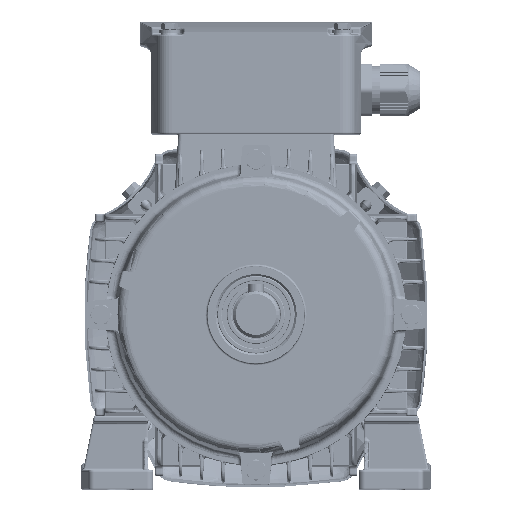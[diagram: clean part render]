
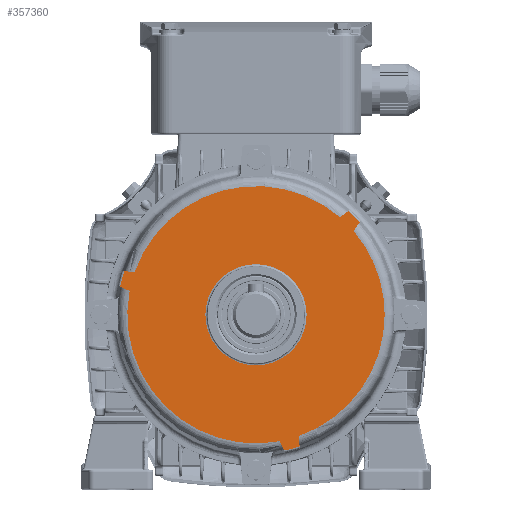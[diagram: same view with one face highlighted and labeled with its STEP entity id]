
A CAD part, top view. The second image highlights one B-rep face of the part: STEP entity #357360.
In plain terms, the highlighted planar face has unit normal (0, 0, 1).
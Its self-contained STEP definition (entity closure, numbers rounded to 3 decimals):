
#3254 = CARTESIAN_POINT ( 'NONE',  ( 0., 0., 119. ) ) ;
#10408 = EDGE_CURVE ( 'NONE', #338042, #300145, #289898, .T. ) ;
#12197 = AXIS2_PLACEMENT_3D ( 'NONE', #105742, #302454, #134089 ) ;
#15324 = CARTESIAN_POINT ( 'NONE',  ( -70.958, 14.872, 119. ) ) ;
#17357 = DIRECTION ( 'NONE',  ( 1., 0., 0. ) ) ;
#25510 = VERTEX_POINT ( 'NONE', #280433 ) ;
#27780 = DIRECTION ( 'NONE',  ( 0., 0., -1. ) ) ;
#29230 = EDGE_CURVE ( 'NONE', #134349, #106742, #33153, .T. ) ;
#30497 = VERTEX_POINT ( 'NONE', #269862 ) ;
#31527 = DIRECTION ( 'NONE',  ( 1., 0., 0. ) ) ;
#33153 = CIRCLE ( 'NONE', #350184, 66.326 ) ;
#34727 = CARTESIAN_POINT ( 'NONE',  ( 21.947, -62.59, 119. ) ) ;
#35490 = ORIENTED_EDGE ( 'NONE', *, *, #339232, .T. ) ;
#46652 = LINE ( 'NONE', #122212, #328010 ) ;
#48577 = EDGE_CURVE ( 'NONE', #25510, #210813, #294242, .T. ) ;
#50082 = CIRCLE ( 'NONE', #220634, 71.5 ) ;
#52134 = CARTESIAN_POINT ( 'NONE',  ( 0., 0., 119. ) ) ;
#58204 = EDGE_CURVE ( 'NONE', #227956, #338042, #183051, .T. ) ;
#73583 = CARTESIAN_POINT ( 'NONE',  ( -62.59, 21.947, 119. ) ) ;
#80462 = DIRECTION ( 'NONE',  ( -1., 0., 0. ) ) ;
#84182 = DIRECTION ( 'NONE',  ( 0., 0., 1. ) ) ;
#87960 = DIRECTION ( 'NONE',  ( 0., 0., 1. ) ) ;
#88258 = EDGE_LOOP ( 'NONE', ( #133736, #35490, #259522, #325013, #149877, #321170, #147806, #309509, #201469, #104296, #178756, #205226, #219716 ) ) ;
#90319 = CARTESIAN_POINT ( 'NONE',  ( 43.231, 50.302, 119. ) ) ;
#92036 = EDGE_CURVE ( 'NONE', #116505, #134349, #125649, .T. ) ;
#92920 = VECTOR ( 'NONE', #240426, 1000. ) ;
#93882 = DIRECTION ( 'NONE',  ( 0., 0., 1. ) ) ;
#97947 = FACE_OUTER_BOUND ( 'NONE', #88258, .T. ) ;
#103442 = DIRECTION ( 'NONE',  ( 0.587, 0.81, 0. ) ) ;
#104296 = ORIENTED_EDGE ( 'NONE', *, *, #227335, .T. ) ;
#105742 = CARTESIAN_POINT ( 'NONE',  ( 0., 0., 119. ) ) ;
#106742 = VERTEX_POINT ( 'NONE', #113297 ) ;
#109967 = EDGE_CURVE ( 'NONE', #210813, #113138, #46652, .T. ) ;
#113138 = VERTEX_POINT ( 'NONE', #194161 ) ;
#113297 = CARTESIAN_POINT ( 'NONE',  ( -62.59, 21.947, 119. ) ) ;
#116505 = VERTEX_POINT ( 'NONE', #164856 ) ;
#118029 = VERTEX_POINT ( 'NONE', #302770 ) ;
#120673 = AXIS2_PLACEMENT_3D ( 'NONE', #196341, #27780, #224609 ) ;
#122212 = CARTESIAN_POINT ( 'NONE',  ( 12.288, -65.178, 119. ) ) ;
#122258 = CARTESIAN_POINT ( 'NONE',  ( -70.024, 14.454, 119. ) ) ;
#123253 = DIRECTION ( 'NONE',  ( -0.103, 0.995, 0. ) ) ;
#125325 = VECTOR ( 'NONE', #103442, 1000. ) ;
#125649 = LINE ( 'NONE', #284484, #262657 ) ;
#125729 = VERTEX_POINT ( 'NONE', #133098 ) ;
#132944 = EDGE_CURVE ( 'NONE', #214432, #248447, #323362, .T. ) ;
#133098 = CARTESIAN_POINT ( 'NONE',  ( 50.302, 43.231, 119. ) ) ;
#133736 = ORIENTED_EDGE ( 'NONE', *, *, #109967, .T. ) ;
#134089 = DIRECTION ( 'NONE',  ( 1., 0., 0. ) ) ;
#134349 = VERTEX_POINT ( 'NONE', #90319 ) ;
#147806 = ORIENTED_EDGE ( 'NONE', *, *, #308079, .T. ) ;
#149071 = DIRECTION ( 'NONE',  ( 0., 0., 1. ) ) ;
#149877 = ORIENTED_EDGE ( 'NONE', *, *, #211864, .T. ) ;
#150491 = DIRECTION ( 'NONE',  ( 0.408, -0.913, 0. ) ) ;
#152642 = CIRCLE ( 'NONE', #260528, 26.106 ) ;
#155727 = EDGE_CURVE ( 'NONE', #125729, #200484, #274866, .T. ) ;
#157886 = AXIS2_PLACEMENT_3D ( 'NONE', #327361, #159138, #355566 ) ;
#157943 = AXIS2_PLACEMENT_3D ( 'NONE', #252596, #84182, #280847 ) ;
#159138 = DIRECTION ( 'NONE',  ( 0., 0., 1. ) ) ;
#164856 = CARTESIAN_POINT ( 'NONE',  ( 47.53, 53.415, 119. ) ) ;
#165573 = PLANE ( 'NONE',  #120673 ) ;
#168463 = AXIS2_PLACEMENT_3D ( 'NONE', #317377, #149071, #345564 ) ;
#172394 = ORIENTED_EDGE ( 'NONE', *, *, #196175, .F. ) ;
#178343 = CARTESIAN_POINT ( 'NONE',  ( -67.869, 22.494, 119. ) ) ;
#178756 = ORIENTED_EDGE ( 'NONE', *, *, #132944, .T. ) ;
#182853 = AXIS2_PLACEMENT_3D ( 'NONE', #256408, #87960, #284645 ) ;
#183051 = LINE ( 'NONE', #349254, #249022 ) ;
#185875 = DIRECTION ( 'NONE',  ( 0., 0., 1. ) ) ;
#194161 = CARTESIAN_POINT ( 'NONE',  ( 14.454, -70.024, 119. ) ) ;
#194923 = CARTESIAN_POINT ( 'NONE',  ( 66.326, 0., 119. ) ) ;
#196175 = EDGE_CURVE ( 'NONE', #30497, #118029, #152642, .T. ) ;
#196341 = CARTESIAN_POINT ( 'NONE',  ( 0., 0., 119. ) ) ;
#200138 = DIRECTION ( 'NONE',  ( 0., 0., 1. ) ) ;
#200484 = VERTEX_POINT ( 'NONE', #339471 ) ;
#201469 = ORIENTED_EDGE ( 'NONE', *, *, #29230, .T. ) ;
#205226 = ORIENTED_EDGE ( 'NONE', *, *, #359438, .T. ) ;
#207667 = AXIS2_PLACEMENT_3D ( 'NONE', #262396, #93882, #290614 ) ;
#209735 = CIRCLE ( 'NONE', #182853, 26.106 ) ;
#210813 = VERTEX_POINT ( 'NONE', #347955 ) ;
#211864 = EDGE_CURVE ( 'NONE', #300145, #125729, #287992, .T. ) ;
#214432 = VERTEX_POINT ( 'NONE', #178343 ) ;
#219716 = ORIENTED_EDGE ( 'NONE', *, *, #48577, .T. ) ;
#220634 = AXIS2_PLACEMENT_3D ( 'NONE', #52134, #248935, #80462 ) ;
#224609 = DIRECTION ( 'NONE',  ( -1., 0., 0. ) ) ;
#226209 = CIRCLE ( 'NONE', #157886, 71.5 ) ;
#227335 = EDGE_CURVE ( 'NONE', #106742, #214432, #305205, .T. ) ;
#227956 = VERTEX_POINT ( 'NONE', #302996 ) ;
#229234 = DIRECTION ( 'NONE',  ( -0.81, -0.587, 0. ) ) ;
#230520 = VECTOR ( 'NONE', #326708, 1000. ) ;
#240426 = DIRECTION ( 'NONE',  ( 0.913, -0.408, 0. ) ) ;
#248447 = VERTEX_POINT ( 'NONE', #122258 ) ;
#248935 = DIRECTION ( 'NONE',  ( 0., 0., 1. ) ) ;
#249022 = VECTOR ( 'NONE', #123253, 1000. ) ;
#252596 = CARTESIAN_POINT ( 'NONE',  ( 0., 0., 119. ) ) ;
#256407 = FACE_BOUND ( 'NONE', #321990, .T. ) ;
#256408 = CARTESIAN_POINT ( 'NONE',  ( 0., 0., 119. ) ) ;
#259522 = ORIENTED_EDGE ( 'NONE', *, *, #58204, .T. ) ;
#260528 = AXIS2_PLACEMENT_3D ( 'NONE', #3254, #200138, #31527 ) ;
#262396 = CARTESIAN_POINT ( 'NONE',  ( 0., 0., 119. ) ) ;
#262657 = VECTOR ( 'NONE', #229234, 1000. ) ;
#264965 = EDGE_CURVE ( 'NONE', #118029, #30497, #209735, .T. ) ;
#269862 = CARTESIAN_POINT ( 'NONE',  ( -26.106, 0., 119. ) ) ;
#271946 = CARTESIAN_POINT ( 'NONE',  ( 50.302, 43.231, 119. ) ) ;
#274866 = LINE ( 'NONE', #271946, #125325 ) ;
#280433 = CARTESIAN_POINT ( 'NONE',  ( -65.178, 12.288, 119. ) ) ;
#280847 = DIRECTION ( 'NONE',  ( 1., 0., 0. ) ) ;
#284484 = CARTESIAN_POINT ( 'NONE',  ( 48.359, 54.016, 119. ) ) ;
#284645 = DIRECTION ( 'NONE',  ( 1., 0., 0. ) ) ;
#287992 = CIRCLE ( 'NONE', #168463, 66.326 ) ;
#289898 = CIRCLE ( 'NONE', #12197, 66.326 ) ;
#290614 = DIRECTION ( 'NONE',  ( -1., 0., 0. ) ) ;
#294242 = CIRCLE ( 'NONE', #157943, 66.326 ) ;
#300145 = VERTEX_POINT ( 'NONE', #194923 ) ;
#302454 = DIRECTION ( 'NONE',  ( 0., 0., 1. ) ) ;
#302770 = CARTESIAN_POINT ( 'NONE',  ( 26.106, 0., 119. ) ) ;
#302996 = CARTESIAN_POINT ( 'NONE',  ( 22.494, -67.869, 119. ) ) ;
#305205 = LINE ( 'NONE', #73583, #230520 ) ;
#308079 = EDGE_CURVE ( 'NONE', #200484, #116505, #50082, .T. ) ;
#309509 = ORIENTED_EDGE ( 'NONE', *, *, #92036, .T. ) ;
#316169 = ORIENTED_EDGE ( 'NONE', *, *, #264965, .F. ) ;
#317183 = LINE ( 'NONE', #15324, #92920 ) ;
#317377 = CARTESIAN_POINT ( 'NONE',  ( 0., 0., 119. ) ) ;
#321170 = ORIENTED_EDGE ( 'NONE', *, *, #155727, .T. ) ;
#321990 = EDGE_LOOP ( 'NONE', ( #316169, #172394 ) ) ;
#323362 = CIRCLE ( 'NONE', #207667, 71.5 ) ;
#325013 = ORIENTED_EDGE ( 'NONE', *, *, #10408, .T. ) ;
#326708 = DIRECTION ( 'NONE',  ( -0.995, 0.103, 0. ) ) ;
#327361 = CARTESIAN_POINT ( 'NONE',  ( 0., 0., 119. ) ) ;
#328010 = VECTOR ( 'NONE', #150491, 1000. ) ;
#338042 = VERTEX_POINT ( 'NONE', #34727 ) ;
#339232 = EDGE_CURVE ( 'NONE', #113138, #227956, #226209, .T. ) ;
#339471 = CARTESIAN_POINT ( 'NONE',  ( 53.415, 47.53, 119. ) ) ;
#345564 = DIRECTION ( 'NONE',  ( 1., 0., 0. ) ) ;
#347955 = CARTESIAN_POINT ( 'NONE',  ( 12.288, -65.178, 119. ) ) ;
#349254 = CARTESIAN_POINT ( 'NONE',  ( 22.6, -68.888, 119. ) ) ;
#350184 = AXIS2_PLACEMENT_3D ( 'NONE', #354070, #185875, #17357 ) ;
#354070 = CARTESIAN_POINT ( 'NONE',  ( 0., 0., 119. ) ) ;
#355566 = DIRECTION ( 'NONE',  ( -1., 0., 0. ) ) ;
#357360 = ADVANCED_FACE ( 'NONE', ( #256407, #97947 ), #165573, .F. ) ;
#359438 = EDGE_CURVE ( 'NONE', #248447, #25510, #317183, .T. ) ;
